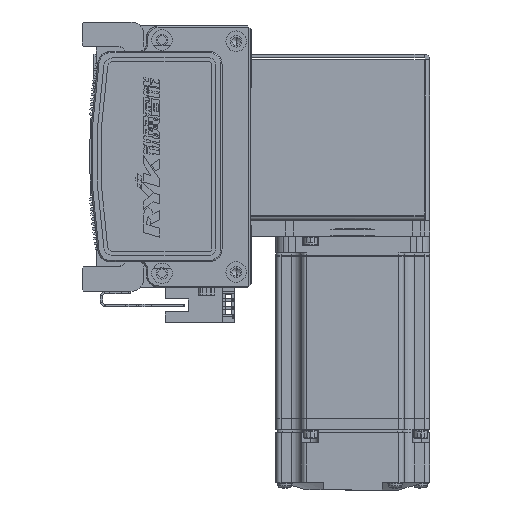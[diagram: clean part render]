
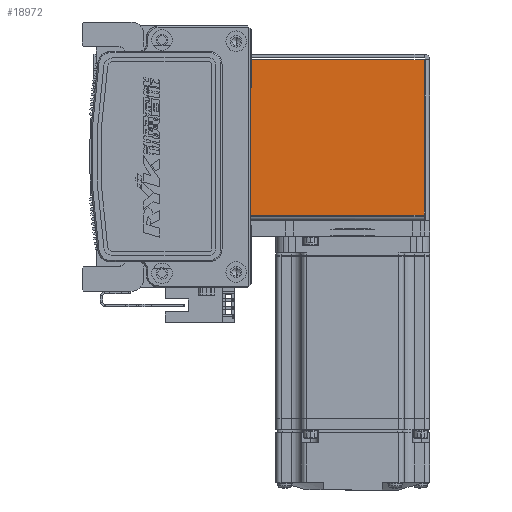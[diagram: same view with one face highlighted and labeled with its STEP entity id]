
A CAD part, left-side view. The second image highlights one B-rep face of the part: STEP entity #18972.
In plain terms, the highlighted planar face has unit normal (-1, 0, 0) as drawn and (0, 0, -1) by its records, which use the part's own axes.
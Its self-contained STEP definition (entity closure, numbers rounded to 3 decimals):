
#32 = VECTOR ( 'NONE', #57437, 1000. ) ;
#68 = DIRECTION ( 'NONE',  ( 0., -1., 0. ) ) ;
#791 = LINE ( 'NONE', #52634, #16615 ) ;
#2083 = LINE ( 'NONE', #7586, #52370 ) ;
#5347 = LINE ( 'NONE', #7141, #32 ) ;
#7141 = CARTESIAN_POINT ( 'NONE',  ( 32.5, 0.737, -35. ) ) ;
#7586 = CARTESIAN_POINT ( 'NONE',  ( -30.293, 0., -35. ) ) ;
#11323 = ORIENTED_EDGE ( 'NONE', *, *, #55374, .T. ) ;
#11572 = CARTESIAN_POINT ( 'NONE',  ( 0., 72.5, -35. ) ) ;
#11652 = PLANE ( 'NONE',  #37448 ) ;
#14133 = CARTESIAN_POINT ( 'NONE',  ( -30.293, 72.5, -35. ) ) ;
#16615 = VECTOR ( 'NONE', #46483, 1000. ) ;
#17309 = CARTESIAN_POINT ( 'NONE',  ( 0., 0., -35. ) ) ;
#18972 = ADVANCED_FACE ( 'NONE', ( #38082 ), #11652, .F. ) ;
#25290 = LINE ( 'NONE', #11572, #30580 ) ;
#25688 = ORIENTED_EDGE ( 'NONE', *, *, #33271, .T. ) ;
#25950 = EDGE_LOOP ( 'NONE', ( #11323, #35375, #43236, #25688 ) ) ;
#27518 = EDGE_CURVE ( 'NONE', #39978, #28274, #2083, .T. ) ;
#28274 = VERTEX_POINT ( 'NONE', #14133 ) ;
#28685 = CARTESIAN_POINT ( 'NONE',  ( 30.263, 0.737, -35. ) ) ;
#29516 = VERTEX_POINT ( 'NONE', #28685 ) ;
#30580 = VECTOR ( 'NONE', #56408, 1000. ) ;
#33271 = EDGE_CURVE ( 'NONE', #28274, #72498, #25290, .T. ) ;
#35375 = ORIENTED_EDGE ( 'NONE', *, *, #50544, .F. ) ;
#37448 = AXIS2_PLACEMENT_3D ( 'NONE', #17309, #50351, #68 ) ;
#38082 = FACE_OUTER_BOUND ( 'NONE', #25950, .T. ) ;
#39978 = VERTEX_POINT ( 'NONE', #49465 ) ;
#43236 = ORIENTED_EDGE ( 'NONE', *, *, #27518, .T. ) ;
#46303 = DIRECTION ( 'NONE',  ( 0., 1., 0. ) ) ;
#46483 = DIRECTION ( 'NONE',  ( 0., -1., 0. ) ) ;
#49465 = CARTESIAN_POINT ( 'NONE',  ( -30.293, 0.737, -35. ) ) ;
#50351 = DIRECTION ( 'NONE',  ( 0., 0., 1. ) ) ;
#50544 = EDGE_CURVE ( 'NONE', #39978, #29516, #5347, .T. ) ;
#52370 = VECTOR ( 'NONE', #46303, 1000. ) ;
#52634 = CARTESIAN_POINT ( 'NONE',  ( 30.263, 72.5, -35. ) ) ;
#55374 = EDGE_CURVE ( 'NONE', #72498, #29516, #791, .T. ) ;
#56408 = DIRECTION ( 'NONE',  ( 1., 0., 0. ) ) ;
#57437 = DIRECTION ( 'NONE',  ( 1., 0., 0. ) ) ;
#61032 = CARTESIAN_POINT ( 'NONE',  ( 30.263, 72.5, -35. ) ) ;
#72498 = VERTEX_POINT ( 'NONE', #61032 ) ;
